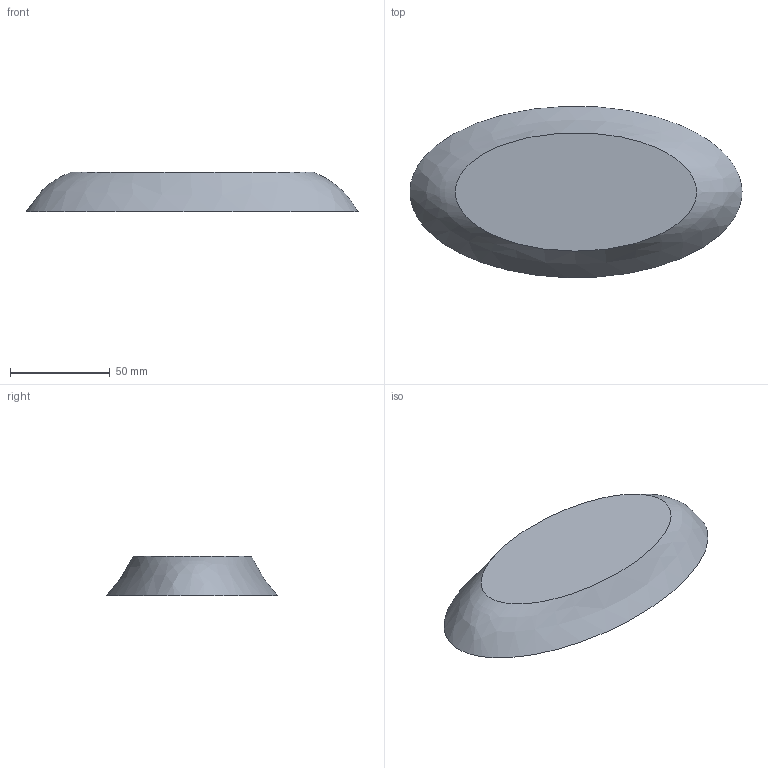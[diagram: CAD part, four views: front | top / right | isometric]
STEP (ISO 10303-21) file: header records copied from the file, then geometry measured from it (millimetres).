
FILE_DESCRIPTION(/* description */ ('Alibre Inc.'),/* implementation_level */ '2;1');
FILE_NAME(/* name */ 'export0',/* time_stamp */ '2010-05-24T15:43:07+02:00',/* author */ (''),/* organization */ (''),/* preprocessor_version */ 'ST-DEVELOPER v10',/* originating_system */ 'Alibre',/* authorisation */ '');
FILE_SCHEMA (('ALIBRE_SCHEMA','CONFIG_CONTROL_DESIGN'));
Length unit declared in the file: centimetre
Products named in the file (1): ID_1
Bounding box: 166.7 x 85.97 x 20 mm (x, y, z)
Volume: 168930.4 mm3; surface area: 26125.2 mm2
Topology: 1 solids, 1 shells, 3 faces, 3 edges, 2 vertices
Faces by surface type: plane 2, bspline 1
Entity records: 813 total; most frequent: CARTESIAN_POINT 371, INTEGERVALUEPAIR 32, CONSTRAINTPAIRUV 30, DIRECTION 29, REALVALUEPAIR 20, BOOLEANVALUEPAIR 17, PRODUCTVERSION 13, DESIGNSTATE 13
